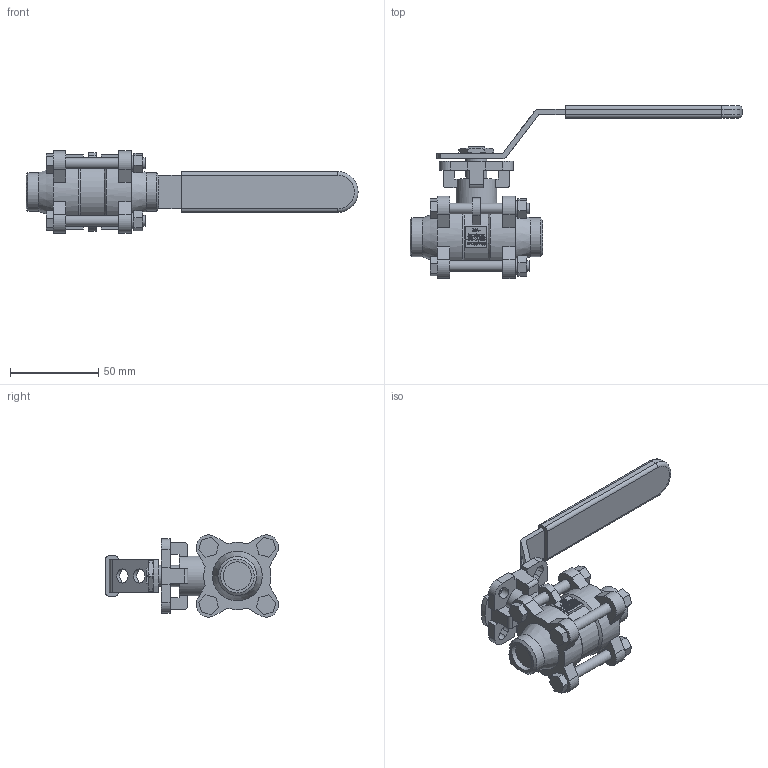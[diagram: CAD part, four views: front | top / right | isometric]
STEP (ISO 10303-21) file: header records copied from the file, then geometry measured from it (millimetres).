
FILE_DESCRIPTION((''),'2;1');
FILE_NAME('K:\Inventor\1 Artikel\11) Muffen-Kugelhähne\11a) manuell\Econosto\470-VABW, 7644ISO\470-VABW, DN15\470-VABW, DN15, 3D\470-VABW, DN15, PN68, HH, 3D.stp','2019-10-23T10:41:55',('claudia'),(''),'Autodesk Inventor 2013','Autodesk Inventor 2013','');
FILE_SCHEMA(('AUTOMOTIVE_DESIGN { 1 0 10303 214 1 1 1 1 }'));
Length unit declared in the file: millimetre
Products named in the file (1): Bauteil8
Bounding box: 187.83 x 97.86 x 46.53 mm (x, y, z)
Volume: 112043.8 mm3; surface area: 33271 mm2
Topology: 1 solids, 1 shells, 1435 faces, 3882 edges, 2582 vertices
Faces by surface type: plane 876, bspline 473, cylinder 66, cone 18, torus 2
Full cylindrical faces by diameter (mm): 6 x8, 6.5 x2, 8 x2, 9 x4, 12 x1, 16 x2, 22 x2, 23 x1, 26 x1, 38 x2
Entity records: 48458 total; most frequent: CARTESIAN_POINT 15551, ORIENTED_EDGE 7688, DIRECTION 4977, EDGE_CURVE 3844, VECTOR 2677, LINE 2677, VERTEX_POINT 2573, EDGE_LOOP 1629
